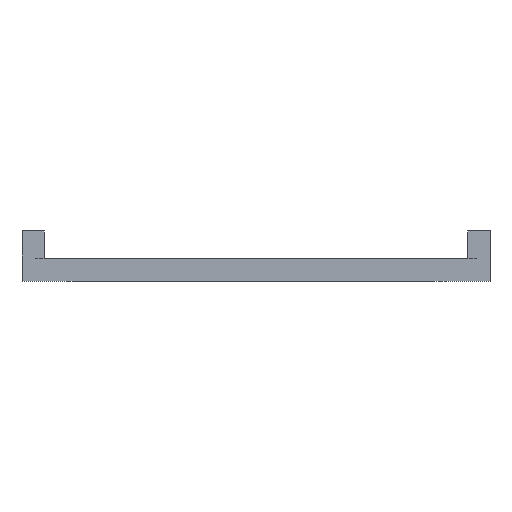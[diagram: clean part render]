
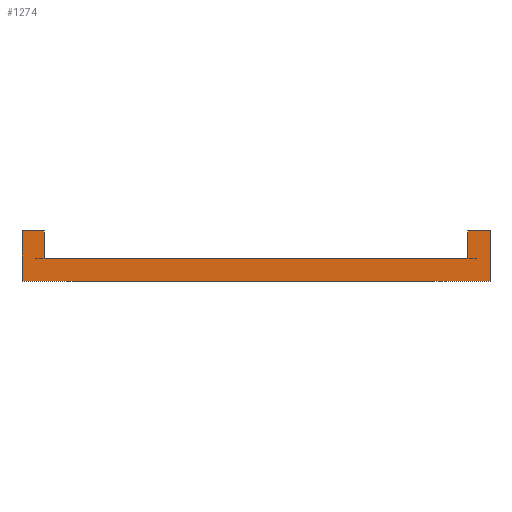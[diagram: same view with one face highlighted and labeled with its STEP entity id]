
A CAD part, front view. The second image highlights one B-rep face of the part: STEP entity #1274.
In plain terms, the highlighted planar face has unit normal (0, -1, 0).
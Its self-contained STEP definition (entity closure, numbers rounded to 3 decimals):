
#44 = PLANE('',#45);
#45 = AXIS2_PLACEMENT_3D('',#46,#47,#48);
#46 = CARTESIAN_POINT('',(0.,0.,-4.5));
#47 = DIRECTION('',(-0.,-0.,-1.));
#48 = DIRECTION('',(-1.,0.,0.));
#72 = PLANE('',#73);
#73 = AXIS2_PLACEMENT_3D('',#74,#75,#76);
#74 = CARTESIAN_POINT('',(-21.05,-25.05,-4.5));
#75 = DIRECTION('',(-1.,0.,0.));
#76 = DIRECTION('',(0.,1.,0.));
#156 = PLANE('',#157);
#157 = AXIS2_PLACEMENT_3D('',#158,#159,#160);
#158 = CARTESIAN_POINT('',(0.,0.,-2.5)
  );
#159 = DIRECTION('',(0.,0.,1.));
#160 = DIRECTION('',(1.,0.,-0.));
#238 = PLANE('',#239);
#239 = AXIS2_PLACEMENT_3D('',#240,#241,#242);
#240 = CARTESIAN_POINT('',(21.05,25.05,-4.5));
#241 = DIRECTION('',(1.,0.,-0.));
#242 = DIRECTION('',(0.,-1.,0.));
#255 = VERTEX_POINT('',#256);
#256 = CARTESIAN_POINT('',(21.05,-25.05,-4.5));
#277 = EDGE_CURVE('',#255,#278,#280,.T.);
#278 = VERTEX_POINT('',#279);
#279 = CARTESIAN_POINT('',(-21.05,-25.05,-4.5));
#280 = SURFACE_CURVE('',#281,(#285,#292),.PCURVE_S1.);
#281 = LINE('',#282,#283);
#282 = CARTESIAN_POINT('',(21.05,-25.05,-4.5));
#283 = VECTOR('',#284,1.);
#284 = DIRECTION('',(-1.,0.,0.));
#285 = PCURVE('',#44,#286);
#286 = DEFINITIONAL_REPRESENTATION('',(#287),#291);
#287 = LINE('',#288,#289);
#288 = CARTESIAN_POINT('',(-21.05,-25.05));
#289 = VECTOR('',#290,1.);
#290 = DIRECTION('',(1.,0.));
#291 = ( GEOMETRIC_REPRESENTATION_CONTEXT(2) 
PARAMETRIC_REPRESENTATION_CONTEXT() REPRESENTATION_CONTEXT('2D SPACE',''
  ) );
#292 = PCURVE('',#293,#298);
#293 = PLANE('',#294);
#294 = AXIS2_PLACEMENT_3D('',#295,#296,#297);
#295 = CARTESIAN_POINT('',(21.05,-25.05,-4.5));
#296 = DIRECTION('',(0.,-1.,0.));
#297 = DIRECTION('',(-1.,0.,0.));
#298 = DEFINITIONAL_REPRESENTATION('',(#299),#303);
#299 = LINE('',#300,#301);
#300 = CARTESIAN_POINT('',(0.,-0.));
#301 = VECTOR('',#302,1.);
#302 = DIRECTION('',(1.,0.));
#303 = ( GEOMETRIC_REPRESENTATION_CONTEXT(2) 
PARAMETRIC_REPRESENTATION_CONTEXT() REPRESENTATION_CONTEXT('2D SPACE',''
  ) );
#662 = CYLINDRICAL_SURFACE('',#663,2.);
#663 = AXIS2_PLACEMENT_3D('',#664,#665,#666);
#664 = CARTESIAN_POINT('',(19.05,-23.05,-2.5));
#665 = DIRECTION('',(-0.,0.,-1.));
#666 = DIRECTION('',(1.,0.,0.));
#675 = VERTEX_POINT('',#676);
#676 = CARTESIAN_POINT('',(21.05,-25.05,0.));
#690 = PLANE('',#691);
#691 = AXIS2_PLACEMENT_3D('',#692,#693,#694);
#692 = CARTESIAN_POINT('',(0.,0.,0.));
#693 = DIRECTION('',(-0.,-0.,-1.));
#694 = DIRECTION('',(-1.,0.,0.));
#702 = EDGE_CURVE('',#255,#675,#703,.T.);
#703 = SURFACE_CURVE('',#704,(#708,#715),.PCURVE_S1.);
#704 = LINE('',#705,#706);
#705 = CARTESIAN_POINT('',(21.05,-25.05,-4.5));
#706 = VECTOR('',#707,1.);
#707 = DIRECTION('',(0.,0.,1.));
#708 = PCURVE('',#238,#709);
#709 = DEFINITIONAL_REPRESENTATION('',(#710),#714);
#710 = LINE('',#711,#712);
#711 = CARTESIAN_POINT('',(50.1,0.));
#712 = VECTOR('',#713,1.);
#713 = DIRECTION('',(0.,-1.));
#714 = ( GEOMETRIC_REPRESENTATION_CONTEXT(2) 
PARAMETRIC_REPRESENTATION_CONTEXT() REPRESENTATION_CONTEXT('2D SPACE',''
  ) );
#715 = PCURVE('',#293,#716);
#716 = DEFINITIONAL_REPRESENTATION('',(#717),#721);
#717 = LINE('',#718,#719);
#718 = CARTESIAN_POINT('',(0.,-0.));
#719 = VECTOR('',#720,1.);
#720 = DIRECTION('',(0.,-1.));
#721 = ( GEOMETRIC_REPRESENTATION_CONTEXT(2) 
PARAMETRIC_REPRESENTATION_CONTEXT() REPRESENTATION_CONTEXT('2D SPACE',''
  ) );
#785 = EDGE_CURVE('',#786,#788,#790,.T.);
#786 = VERTEX_POINT('',#787);
#787 = CARTESIAN_POINT('',(-19.05,-25.05,-2.5));
#788 = VERTEX_POINT('',#789);
#789 = CARTESIAN_POINT('',(19.05,-25.05,-2.5));
#790 = SURFACE_CURVE('',#791,(#795,#802),.PCURVE_S1.);
#791 = LINE('',#792,#793);
#792 = CARTESIAN_POINT('',(-19.05,-25.05,-2.5));
#793 = VECTOR('',#794,1.);
#794 = DIRECTION('',(1.,0.,0.));
#795 = PCURVE('',#156,#796);
#796 = DEFINITIONAL_REPRESENTATION('',(#797),#801);
#797 = LINE('',#798,#799);
#798 = CARTESIAN_POINT('',(-19.05,-25.05));
#799 = VECTOR('',#800,1.);
#800 = DIRECTION('',(1.,0.));
#801 = ( GEOMETRIC_REPRESENTATION_CONTEXT(2) 
PARAMETRIC_REPRESENTATION_CONTEXT() REPRESENTATION_CONTEXT('2D SPACE',''
  ) );
#802 = PCURVE('',#293,#803);
#803 = DEFINITIONAL_REPRESENTATION('',(#804),#808);
#804 = LINE('',#805,#806);
#805 = CARTESIAN_POINT('',(40.1,-2.));
#806 = VECTOR('',#807,1.);
#807 = DIRECTION('',(-1.,-0.));
#808 = ( GEOMETRIC_REPRESENTATION_CONTEXT(2) 
PARAMETRIC_REPRESENTATION_CONTEXT() REPRESENTATION_CONTEXT('2D SPACE',''
  ) );
#897 = CYLINDRICAL_SURFACE('',#898,2.);
#898 = AXIS2_PLACEMENT_3D('',#899,#900,#901);
#899 = CARTESIAN_POINT('',(-19.05,-23.05,-2.5));
#900 = DIRECTION('',(-0.,0.,-1.));
#901 = DIRECTION('',(1.,0.,0.));
#1199 = EDGE_CURVE('',#278,#1200,#1202,.T.);
#1200 = VERTEX_POINT('',#1201);
#1201 = CARTESIAN_POINT('',(-21.05,-25.05,0.));
#1202 = SURFACE_CURVE('',#1203,(#1207,#1214),.PCURVE_S1.);
#1203 = LINE('',#1204,#1205);
#1204 = CARTESIAN_POINT('',(-21.05,-25.05,-4.5));
#1205 = VECTOR('',#1206,1.);
#1206 = DIRECTION('',(0.,0.,1.));
#1207 = PCURVE('',#72,#1208);
#1208 = DEFINITIONAL_REPRESENTATION('',(#1209),#1213);
#1209 = LINE('',#1210,#1211);
#1210 = CARTESIAN_POINT('',(0.,0.));
#1211 = VECTOR('',#1212,1.);
#1212 = DIRECTION('',(0.,-1.));
#1213 = ( GEOMETRIC_REPRESENTATION_CONTEXT(2) 
PARAMETRIC_REPRESENTATION_CONTEXT() REPRESENTATION_CONTEXT('2D SPACE',''
  ) );
#1214 = PCURVE('',#293,#1215);
#1215 = DEFINITIONAL_REPRESENTATION('',(#1216),#1220);
#1216 = LINE('',#1217,#1218);
#1217 = CARTESIAN_POINT('',(42.1,0.));
#1218 = VECTOR('',#1219,1.);
#1219 = DIRECTION('',(0.,-1.));
#1220 = ( GEOMETRIC_REPRESENTATION_CONTEXT(2) 
PARAMETRIC_REPRESENTATION_CONTEXT() REPRESENTATION_CONTEXT('2D SPACE',''
  ) );
#1238 = PLANE('',#1239);
#1239 = AXIS2_PLACEMENT_3D('',#1240,#1241,#1242);
#1240 = CARTESIAN_POINT('',(0.,0.,0.));
#1241 = DIRECTION('',(-0.,-0.,-1.));
#1242 = DIRECTION('',(-1.,0.,0.));
#1274 = ADVANCED_FACE('',(#1275),#293,.T.);
#1275 = FACE_BOUND('',#1276,.T.);
#1276 = EDGE_LOOP('',(#1277,#1278,#1279,#1302,#1323,#1324,#1347,#1368));
#1277 = ORIENTED_EDGE('',*,*,#277,.F.);
#1278 = ORIENTED_EDGE('',*,*,#702,.T.);
#1279 = ORIENTED_EDGE('',*,*,#1280,.T.);
#1280 = EDGE_CURVE('',#675,#1281,#1283,.T.);
#1281 = VERTEX_POINT('',#1282);
#1282 = CARTESIAN_POINT('',(19.05,-25.05,0.));
#1283 = SURFACE_CURVE('',#1284,(#1288,#1295),.PCURVE_S1.);
#1284 = LINE('',#1285,#1286);
#1285 = CARTESIAN_POINT('',(21.05,-25.05,0.));
#1286 = VECTOR('',#1287,1.);
#1287 = DIRECTION('',(-1.,0.,0.));
#1288 = PCURVE('',#293,#1289);
#1289 = DEFINITIONAL_REPRESENTATION('',(#1290),#1294);
#1290 = LINE('',#1291,#1292);
#1291 = CARTESIAN_POINT('',(0.,-4.5));
#1292 = VECTOR('',#1293,1.);
#1293 = DIRECTION('',(1.,0.));
#1294 = ( GEOMETRIC_REPRESENTATION_CONTEXT(2) 
PARAMETRIC_REPRESENTATION_CONTEXT() REPRESENTATION_CONTEXT('2D SPACE',''
  ) );
#1295 = PCURVE('',#690,#1296);
#1296 = DEFINITIONAL_REPRESENTATION('',(#1297),#1301);
#1297 = LINE('',#1298,#1299);
#1298 = CARTESIAN_POINT('',(-21.05,-25.05));
#1299 = VECTOR('',#1300,1.);
#1300 = DIRECTION('',(1.,0.));
#1301 = ( GEOMETRIC_REPRESENTATION_CONTEXT(2) 
PARAMETRIC_REPRESENTATION_CONTEXT() REPRESENTATION_CONTEXT('2D SPACE',''
  ) );
#1302 = ORIENTED_EDGE('',*,*,#1303,.F.);
#1303 = EDGE_CURVE('',#788,#1281,#1304,.T.);
#1304 = SURFACE_CURVE('',#1305,(#1309,#1316),.PCURVE_S1.);
#1305 = LINE('',#1306,#1307);
#1306 = CARTESIAN_POINT('',(19.05,-25.05,-2.5));
#1307 = VECTOR('',#1308,1.);
#1308 = DIRECTION('',(0.,0.,1.));
#1309 = PCURVE('',#293,#1310);
#1310 = DEFINITIONAL_REPRESENTATION('',(#1311),#1315);
#1311 = LINE('',#1312,#1313);
#1312 = CARTESIAN_POINT('',(2.,-2.));
#1313 = VECTOR('',#1314,1.);
#1314 = DIRECTION('',(0.,-1.));
#1315 = ( GEOMETRIC_REPRESENTATION_CONTEXT(2) 
PARAMETRIC_REPRESENTATION_CONTEXT() REPRESENTATION_CONTEXT('2D SPACE',''
  ) );
#1316 = PCURVE('',#662,#1317);
#1317 = DEFINITIONAL_REPRESENTATION('',(#1318),#1322);
#1318 = LINE('',#1319,#1320);
#1319 = CARTESIAN_POINT('',(1.571,0.));
#1320 = VECTOR('',#1321,1.);
#1321 = DIRECTION('',(-0.,-1.));
#1322 = ( GEOMETRIC_REPRESENTATION_CONTEXT(2) 
PARAMETRIC_REPRESENTATION_CONTEXT() REPRESENTATION_CONTEXT('2D SPACE',''
  ) );
#1323 = ORIENTED_EDGE('',*,*,#785,.F.);
#1324 = ORIENTED_EDGE('',*,*,#1325,.T.);
#1325 = EDGE_CURVE('',#786,#1326,#1328,.T.);
#1326 = VERTEX_POINT('',#1327);
#1327 = CARTESIAN_POINT('',(-19.05,-25.05,0.));
#1328 = SURFACE_CURVE('',#1329,(#1333,#1340),.PCURVE_S1.);
#1329 = LINE('',#1330,#1331);
#1330 = CARTESIAN_POINT('',(-19.05,-25.05,-2.5));
#1331 = VECTOR('',#1332,1.);
#1332 = DIRECTION('',(0.,0.,1.));
#1333 = PCURVE('',#293,#1334);
#1334 = DEFINITIONAL_REPRESENTATION('',(#1335),#1339);
#1335 = LINE('',#1336,#1337);
#1336 = CARTESIAN_POINT('',(40.1,-2.));
#1337 = VECTOR('',#1338,1.);
#1338 = DIRECTION('',(0.,-1.));
#1339 = ( GEOMETRIC_REPRESENTATION_CONTEXT(2) 
PARAMETRIC_REPRESENTATION_CONTEXT() REPRESENTATION_CONTEXT('2D SPACE',''
  ) );
#1340 = PCURVE('',#897,#1341);
#1341 = DEFINITIONAL_REPRESENTATION('',(#1342),#1346);
#1342 = LINE('',#1343,#1344);
#1343 = CARTESIAN_POINT('',(1.571,0.));
#1344 = VECTOR('',#1345,1.);
#1345 = DIRECTION('',(-0.,-1.));
#1346 = ( GEOMETRIC_REPRESENTATION_CONTEXT(2) 
PARAMETRIC_REPRESENTATION_CONTEXT() REPRESENTATION_CONTEXT('2D SPACE',''
  ) );
#1347 = ORIENTED_EDGE('',*,*,#1348,.T.);
#1348 = EDGE_CURVE('',#1326,#1200,#1349,.T.);
#1349 = SURFACE_CURVE('',#1350,(#1354,#1361),.PCURVE_S1.);
#1350 = LINE('',#1351,#1352);
#1351 = CARTESIAN_POINT('',(21.05,-25.05,0.));
#1352 = VECTOR('',#1353,1.);
#1353 = DIRECTION('',(-1.,0.,0.));
#1354 = PCURVE('',#293,#1355);
#1355 = DEFINITIONAL_REPRESENTATION('',(#1356),#1360);
#1356 = LINE('',#1357,#1358);
#1357 = CARTESIAN_POINT('',(0.,-4.5));
#1358 = VECTOR('',#1359,1.);
#1359 = DIRECTION('',(1.,0.));
#1360 = ( GEOMETRIC_REPRESENTATION_CONTEXT(2) 
PARAMETRIC_REPRESENTATION_CONTEXT() REPRESENTATION_CONTEXT('2D SPACE',''
  ) );
#1361 = PCURVE('',#1238,#1362);
#1362 = DEFINITIONAL_REPRESENTATION('',(#1363),#1367);
#1363 = LINE('',#1364,#1365);
#1364 = CARTESIAN_POINT('',(-21.05,-25.05));
#1365 = VECTOR('',#1366,1.);
#1366 = DIRECTION('',(1.,0.));
#1367 = ( GEOMETRIC_REPRESENTATION_CONTEXT(2) 
PARAMETRIC_REPRESENTATION_CONTEXT() REPRESENTATION_CONTEXT('2D SPACE',''
  ) );
#1368 = ORIENTED_EDGE('',*,*,#1199,.F.);
